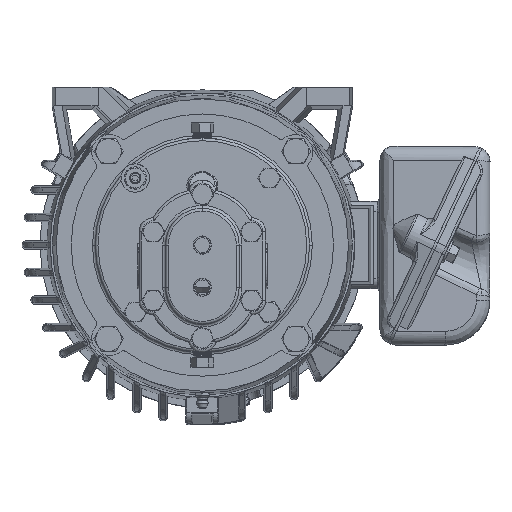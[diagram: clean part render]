
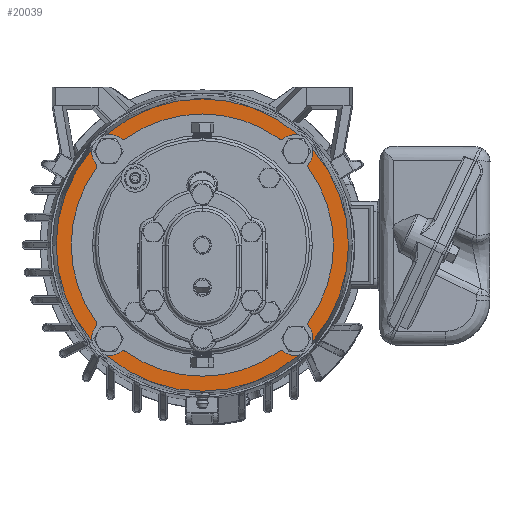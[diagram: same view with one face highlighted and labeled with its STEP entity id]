
A CAD part, front view. The second image highlights one B-rep face of the part: STEP entity #20039.
In plain terms, the highlighted planar face has unit normal (0, -1, 0).
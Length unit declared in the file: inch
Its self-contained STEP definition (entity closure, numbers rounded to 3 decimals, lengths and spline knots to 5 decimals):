
#943 = DIRECTION ( 'NONE',  ( 0., 1., 0. ) ) ;
#6208 = DIRECTION ( 'NONE',  ( -1., 0., 0. ) ) ;
#8973 = AXIS2_PLACEMENT_3D ( 'NONE', #68970, #167278, #40143 ) ;
#12352 = CIRCLE ( 'NONE', #131114, 0.15625 ) ;
#13698 = CARTESIAN_POINT ( 'NONE',  ( 2.24925, 6.154, 0.469 ) ) ;
#14121 = DIRECTION ( 'NONE',  ( -1., 0., 0. ) ) ;
#15012 = CARTESIAN_POINT ( 'NONE',  ( -3.23767, 6.154, 0.469 ) ) ;
#15036 = CARTESIAN_POINT ( 'NONE',  ( 0., 6.154, 0.469 ) ) ;
#16518 = DIRECTION ( 'NONE',  ( 0., 1., 0. ) ) ;
#17978 = DIRECTION ( 'NONE',  ( -1., 0., 0. ) ) ;
#19510 = CARTESIAN_POINT ( 'NONE',  ( 2.23338, 6.154, -1.60813 ) ) ;
#19694 = ORIENTED_EDGE ( 'NONE', *, *, #88543, .F. ) ;
#19798 = CARTESIAN_POINT ( 'NONE',  ( 0., 6.154, -2.85606 ) ) ;
#20039 = ADVANCED_FACE ( 'NONE', ( #144327, #155450, #57973, #42183, #142515, #114626 ), #143418, .T. ) ;
#20176 = EDGE_CURVE ( 'NONE', #108081, #47652, #124803, .T. ) ;
#21812 = EDGE_LOOP ( 'NONE', ( #26119, #25995 ) ) ;
#22654 = CARTESIAN_POINT ( 'NONE',  ( -1.92088, 6.154, 2.54613 ) ) ;
#22871 = CARTESIAN_POINT ( 'NONE',  ( 1.92088, 6.154, 2.54613 ) ) ;
#25677 = ORIENTED_EDGE ( 'NONE', *, *, #65650, .T. ) ;
#25995 = ORIENTED_EDGE ( 'NONE', *, *, #20176, .F. ) ;
#26119 = ORIENTED_EDGE ( 'NONE', *, *, #51090, .F. ) ;
#26451 = CIRCLE ( 'NONE', #145173, 2.24925 ) ;
#27863 = VERTEX_POINT ( 'NONE', #114758 ) ;
#28848 = DIRECTION ( 'NONE',  ( -1., 0., 0. ) ) ;
#30118 = AXIS2_PLACEMENT_3D ( 'NONE', #33571, #164387, #175531 ) ;
#30192 = DIRECTION ( 'NONE',  ( 0., -1., 0. ) ) ;
#33571 = CARTESIAN_POINT ( 'NONE',  ( -2.07713, 6.154, 2.54613 ) ) ;
#34324 = EDGE_CURVE ( 'NONE', #137620, #177602, #26451, .T. ) ;
#38285 = AXIS2_PLACEMENT_3D ( 'NONE', #45300, #16518, #85320 ) ;
#40143 = DIRECTION ( 'NONE',  ( -1., 0., 0. ) ) ;
#41353 = CIRCLE ( 'NONE', #47323, 3.23767 ) ;
#42183 = FACE_BOUND ( 'NONE', #94611, .T. ) ;
#42512 = CARTESIAN_POINT ( 'NONE',  ( 0., 6.154, 0.469 ) ) ;
#42713 = CARTESIAN_POINT ( 'NONE',  ( 3.23767, 6.154, 0.469 ) ) ;
#44979 = CIRCLE ( 'NONE', #30118, 0.15625 ) ;
#45065 = CARTESIAN_POINT ( 'NONE',  ( 2.07713, 6.154, 2.54613 ) ) ;
#45300 = CARTESIAN_POINT ( 'NONE',  ( 0., 6.154, 0.469 ) ) ;
#47323 = AXIS2_PLACEMENT_3D ( 'NONE', #15036, #56886, #14121 ) ;
#47652 = VERTEX_POINT ( 'NONE', #87081 ) ;
#48697 = AXIS2_PLACEMENT_3D ( 'NONE', #173923, #58956, #157326 ) ;
#49441 = VERTEX_POINT ( 'NONE', #161521 ) ;
#50466 = CIRCLE ( 'NONE', #74251, 0.15625 ) ;
#51090 = EDGE_CURVE ( 'NONE', #47652, #108081, #55698, .T. ) ;
#52887 = VERTEX_POINT ( 'NONE', #19510 ) ;
#55266 = EDGE_CURVE ( 'NONE', #27863, #135170, #50466, .T. ) ;
#55698 = CIRCLE ( 'NONE', #94118, 0.15625 ) ;
#56476 = DIRECTION ( 'NONE',  ( 1., 0., 0. ) ) ;
#56886 = DIRECTION ( 'NONE',  ( 0., 1., 0. ) ) ;
#57973 = FACE_BOUND ( 'NONE', #86963, .T. ) ;
#58956 = DIRECTION ( 'NONE',  ( 0., -1., 0. ) ) ;
#60417 = AXIS2_PLACEMENT_3D ( 'NONE', #140117, #174008, #167847 ) ;
#62264 = EDGE_LOOP ( 'NONE', ( #25677, #110271 ) ) ;
#65650 = EDGE_CURVE ( 'NONE', #177602, #137620, #166137, .T. ) ;
#67497 = ORIENTED_EDGE ( 'NONE', *, *, #134359, .F. ) ;
#68837 = VERTEX_POINT ( 'NONE', #42713 ) ;
#68970 = CARTESIAN_POINT ( 'NONE',  ( -2.07713, 6.154, -1.60813 ) ) ;
#74251 = AXIS2_PLACEMENT_3D ( 'NONE', #75004, #103722, #174153 ) ;
#75004 = CARTESIAN_POINT ( 'NONE',  ( 2.07713, 6.154, 2.54613 ) ) ;
#84688 = EDGE_CURVE ( 'NONE', #128848, #123766, #158258, .T. ) ;
#85320 = DIRECTION ( 'NONE',  ( 1., 0., 0. ) ) ;
#86158 = DIRECTION ( 'NONE',  ( 0., 1., 0. ) ) ;
#86963 = EDGE_LOOP ( 'NONE', ( #159356, #108958 ) ) ;
#87081 = CARTESIAN_POINT ( 'NONE',  ( -2.23338, 6.154, -1.60813 ) ) ;
#88543 = EDGE_CURVE ( 'NONE', #176386, #68837, #41353, .T. ) ;
#92524 = EDGE_LOOP ( 'NONE', ( #142121, #105038 ) ) ;
#94118 = AXIS2_PLACEMENT_3D ( 'NONE', #115254, #99434, #28848 ) ;
#94611 = EDGE_LOOP ( 'NONE', ( #135218, #67497 ) ) ;
#97074 = CARTESIAN_POINT ( 'NONE',  ( -2.23338, 6.154, 2.54613 ) ) ;
#98464 = DIRECTION ( 'NONE',  ( -1., 0., 0. ) ) ;
#99151 = EDGE_CURVE ( 'NONE', #49441, #52887, #125639, .T. ) ;
#99434 = DIRECTION ( 'NONE',  ( 0., -1., 0. ) ) ;
#102634 = DIRECTION ( 'NONE',  ( -1., 0., 0. ) ) ;
#103722 = DIRECTION ( 'NONE',  ( 0., -1., 0. ) ) ;
#104945 = CIRCLE ( 'NONE', #158150, 0.15625 ) ;
#105038 = ORIENTED_EDGE ( 'NONE', *, *, #84688, .F. ) ;
#108081 = VERTEX_POINT ( 'NONE', #138641 ) ;
#108958 = ORIENTED_EDGE ( 'NONE', *, *, #55266, .F. ) ;
#110271 = ORIENTED_EDGE ( 'NONE', *, *, #34324, .T. ) ;
#114626 = FACE_BOUND ( 'NONE', #62264, .T. ) ;
#114758 = CARTESIAN_POINT ( 'NONE',  ( 2.23338, 6.154, 2.54613 ) ) ;
#115254 = CARTESIAN_POINT ( 'NONE',  ( -2.07713, 6.154, -1.60813 ) ) ;
#117705 = DIRECTION ( 'NONE',  ( 0., -1., 0. ) ) ;
#123146 = EDGE_LOOP ( 'NONE', ( #126923, #19694 ) ) ;
#123766 = VERTEX_POINT ( 'NONE', #97074 ) ;
#124803 = CIRCLE ( 'NONE', #8973, 0.15625 ) ;
#125639 = CIRCLE ( 'NONE', #60417, 0.15625 ) ;
#126923 = ORIENTED_EDGE ( 'NONE', *, *, #147350, .F. ) ;
#128229 = CARTESIAN_POINT ( 'NONE',  ( 0., 6.154, 0.469 ) ) ;
#128848 = VERTEX_POINT ( 'NONE', #22654 ) ;
#131114 = AXIS2_PLACEMENT_3D ( 'NONE', #160299, #117705, #6208 ) ;
#134359 = EDGE_CURVE ( 'NONE', #52887, #49441, #12352, .T. ) ;
#135170 = VERTEX_POINT ( 'NONE', #22871 ) ;
#135218 = ORIENTED_EDGE ( 'NONE', *, *, #99151, .F. ) ;
#135241 = EDGE_CURVE ( 'NONE', #135170, #27863, #104945, .T. ) ;
#137620 = VERTEX_POINT ( 'NONE', #140107 ) ;
#138641 = CARTESIAN_POINT ( 'NONE',  ( -1.92088, 6.154, -1.60813 ) ) ;
#140107 = CARTESIAN_POINT ( 'NONE',  ( -2.24925, 6.154, 0.469 ) ) ;
#140117 = CARTESIAN_POINT ( 'NONE',  ( 2.07713, 6.154, -1.60813 ) ) ;
#140915 = AXIS2_PLACEMENT_3D ( 'NONE', #128229, #943, #98464 ) ;
#142121 = ORIENTED_EDGE ( 'NONE', *, *, #169928, .F. ) ;
#142515 = FACE_OUTER_BOUND ( 'NONE', #123146, .T. ) ;
#143418 = PLANE ( 'NONE',  #180848 ) ;
#143957 = CIRCLE ( 'NONE', #140915, 3.23767 ) ;
#144327 = FACE_BOUND ( 'NONE', #21812, .T. ) ;
#145173 = AXIS2_PLACEMENT_3D ( 'NONE', #42512, #86158, #56476 ) ;
#147350 = EDGE_CURVE ( 'NONE', #68837, #176386, #143957, .T. ) ;
#155450 = FACE_BOUND ( 'NONE', #92524, .T. ) ;
#157326 = DIRECTION ( 'NONE',  ( -1., 0., 0. ) ) ;
#158150 = AXIS2_PLACEMENT_3D ( 'NONE', #45065, #30192, #102634 ) ;
#158258 = CIRCLE ( 'NONE', #48697, 0.15625 ) ;
#159356 = ORIENTED_EDGE ( 'NONE', *, *, #135241, .F. ) ;
#160299 = CARTESIAN_POINT ( 'NONE',  ( 2.07713, 6.154, -1.60813 ) ) ;
#161521 = CARTESIAN_POINT ( 'NONE',  ( 1.92088, 6.154, -1.60813 ) ) ;
#164387 = DIRECTION ( 'NONE',  ( 0., -1., 0. ) ) ;
#166137 = CIRCLE ( 'NONE', #38285, 2.24925 ) ;
#167278 = DIRECTION ( 'NONE',  ( 0., -1., 0. ) ) ;
#167847 = DIRECTION ( 'NONE',  ( -1., 0., 0. ) ) ;
#169928 = EDGE_CURVE ( 'NONE', #123766, #128848, #44979, .T. ) ;
#173923 = CARTESIAN_POINT ( 'NONE',  ( -2.07713, 6.154, 2.54613 ) ) ;
#174008 = DIRECTION ( 'NONE',  ( 0., -1., 0. ) ) ;
#174153 = DIRECTION ( 'NONE',  ( -1., 0., 0. ) ) ;
#174754 = DIRECTION ( 'NONE',  ( 0., -1., 0. ) ) ;
#175531 = DIRECTION ( 'NONE',  ( -1., 0., 0. ) ) ;
#176386 = VERTEX_POINT ( 'NONE', #15012 ) ;
#177602 = VERTEX_POINT ( 'NONE', #13698 ) ;
#180848 = AXIS2_PLACEMENT_3D ( 'NONE', #19798, #174754, #17978 ) ;
